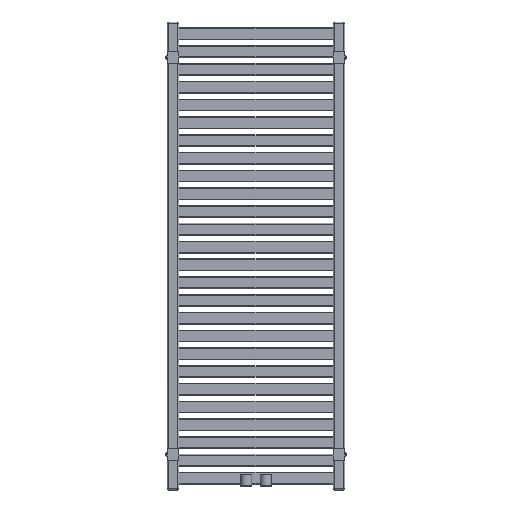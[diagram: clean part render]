
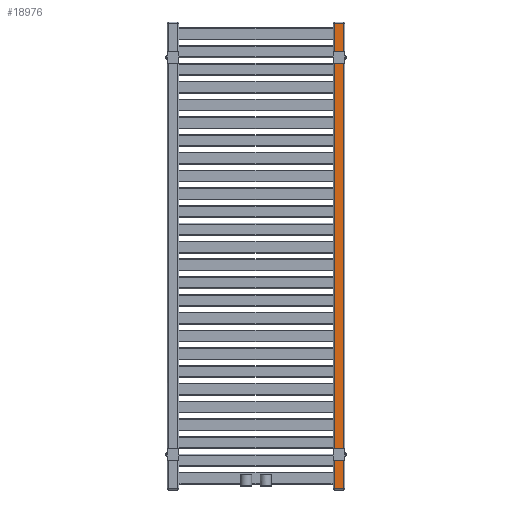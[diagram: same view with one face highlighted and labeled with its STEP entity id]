
A CAD part, front view. The second image highlights one B-rep face of the part: STEP entity #18976.
In plain terms, the highlighted planar face has unit normal (0, -1, 0).
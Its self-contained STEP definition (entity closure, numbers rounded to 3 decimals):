
#18804=CARTESIAN_POINT('',(222.0,-15.,1182.0));
#18805=VERTEX_POINT('',#18804);
#18821=CARTESIAN_POINT('',(198.0,-15.,1182.0));
#18822=VERTEX_POINT('',#18821);
#18830=CARTESIAN_POINT('',(198.0,-15.,1182.0));
#18831=DIRECTION('',(1.0,0.0,0.0));
#18832=VECTOR('',#18831,24.);
#18833=LINE('',#18830,#18832);
#18834=EDGE_CURVE('',#18822,#18805,#18833,.T.);
#18934=CARTESIAN_POINT('',(222.0,-15.,3.0));
#18935=VERTEX_POINT('',#18934);
#18936=CARTESIAN_POINT('',(222.0,-15.,3.0));
#18937=DIRECTION('',(0.0,0.0,1.0));
#18938=VECTOR('',#18937,1179.0);
#18939=LINE('',#18936,#18938);
#18940=EDGE_CURVE('',#18935,#18805,#18939,.T.);
#18953=CARTESIAN_POINT('',(222.0,-15.,0.0));
#18954=DIRECTION('',(0.0,-1.0,0.0));
#18955=DIRECTION('',(0.0,0.0,-1.0));
#18956=AXIS2_PLACEMENT_3D('',#18953,#18954,#18955);
#18957=PLANE('',#18956);
#18958=ORIENTED_EDGE('',*,*,#18834,.F.);
#18959=CARTESIAN_POINT('',(198.0,-15.,3.0));
#18960=VERTEX_POINT('',#18959);
#18961=CARTESIAN_POINT('',(198.0,-15.,3.0));
#18962=DIRECTION('',(0.0,0.0,1.0));
#18963=VECTOR('',#18962,1179.0);
#18964=LINE('',#18961,#18963);
#18965=EDGE_CURVE('',#18960,#18822,#18964,.T.);
#18966=ORIENTED_EDGE('',*,*,#18965,.F.);
#18967=CARTESIAN_POINT('',(222.0,-15.,3.0));
#18968=DIRECTION('',(-1.0,0.0,0.0));
#18969=VECTOR('',#18968,24.0);
#18970=LINE('',#18967,#18969);
#18971=EDGE_CURVE('',#18935,#18960,#18970,.T.);
#18972=ORIENTED_EDGE('',*,*,#18971,.F.);
#18973=ORIENTED_EDGE('',*,*,#18940,.T.);
#18974=EDGE_LOOP('',(#18958,#18966,#18972,#18973));
#18975=FACE_OUTER_BOUND('',#18974,.T.);
#18976=ADVANCED_FACE('',(#18975),#18957,.T.);
